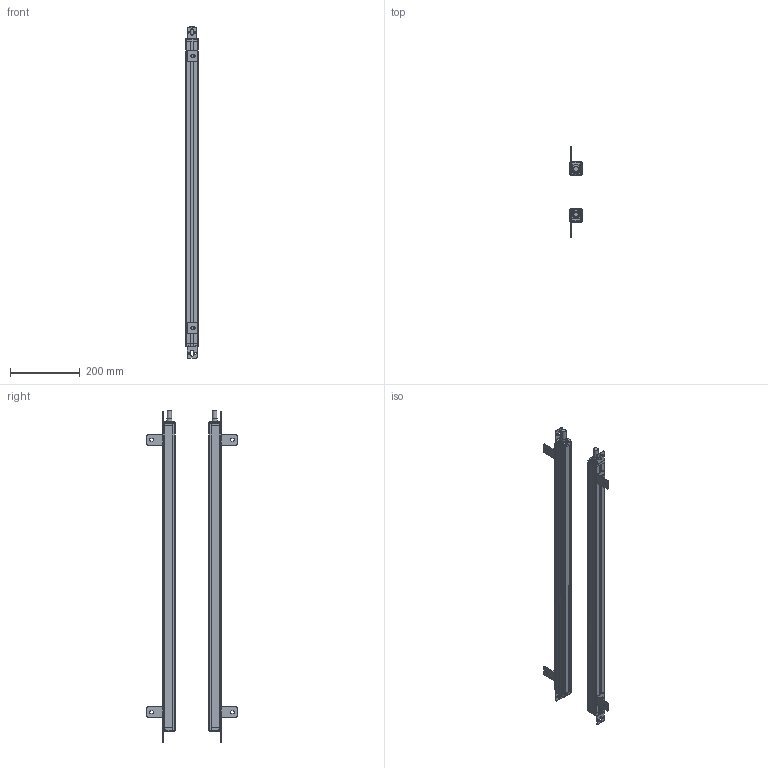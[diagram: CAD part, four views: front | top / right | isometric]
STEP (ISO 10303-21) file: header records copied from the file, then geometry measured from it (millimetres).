
FILE_DESCRIPTION(/* description */ (''),/* implementation_level */ '2;1');
FILE_NAME(/* name */ '4220_35X35_stp.stp',/* time_stamp */ '2023-09-18T16:25:34+08:00',/* author */ (''),/* organization */ (''),/* preprocessor_version */ 'ST-DEVELOPER v16.7',/* originating_system */ 'SIEMENS PLM Software NX 12.0',/* authorisation */ '');
FILE_SCHEMA (('AP203_CONFIGURATION_CONTROLLED_3D_DESIGN_OF_MECHANICAL_PARTS_AND_ASSEMBLIES_MIM_LF { 1 0 10303 403 2 1 2}'));
Length unit declared in the file: millimetre
Products named in the file (1): 4220_35X35_stp_stp
Bounding box: 35.41 x 258.01 x 951.6 mm (x, y, z)
Volume: 871626.3 mm3; surface area: 658502.9 mm2
Topology: 28 solids, 28 shells, 1182 faces, 3360 edges, 2260 vertices
Faces by surface type: plane 658, cylinder 464, cone 60
Full cylindrical faces by diameter (mm): 3.2 x8, 6 x24, 13 x2, 14.4 x2, 15 x2
Entity records: 39055 total; most frequent: DIRECTION 6832, CARTESIAN_POINT 6745, ORIENTED_EDGE 6612, EDGE_CURVE 3306, AXIS2_PLACEMENT_3D 2347, VERTEX_POINT 2244, LINE 2138, VECTOR 2138
